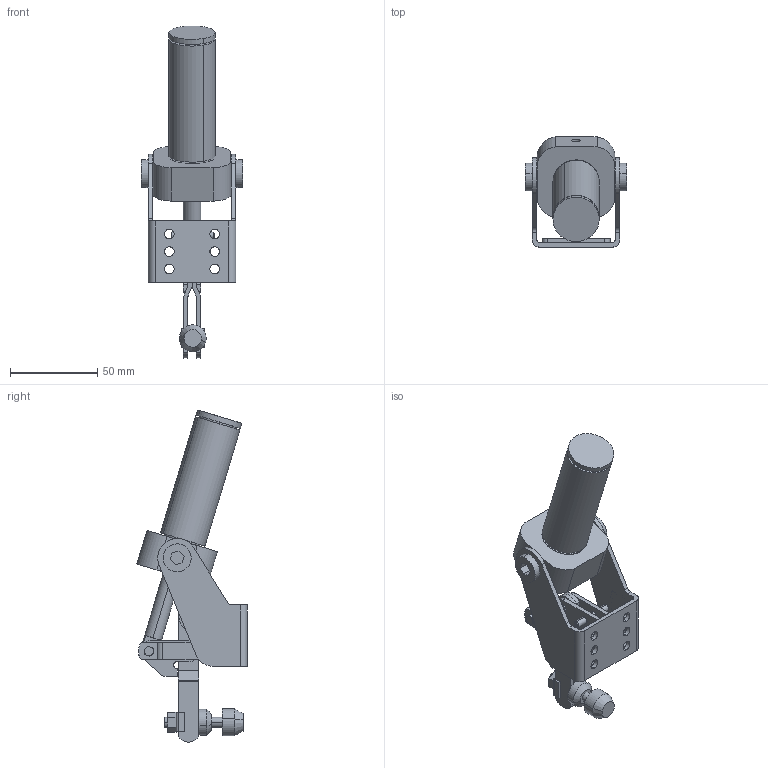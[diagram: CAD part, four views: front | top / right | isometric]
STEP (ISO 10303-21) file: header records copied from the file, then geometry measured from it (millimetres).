
FILE_DESCRIPTION (( 'STEP AP214' ), '1' );
FILE_NAME ('620Y-2 Montaj.STEP', '2017-05-03T08:45:41', ( '' ), ( '' ), 'SwSTEP 2.0', 'SolidWorks 2015', '' );
FILE_SCHEMA (( 'AUTOMOTIVE_DESIGN' ));
Length unit declared in the file: millimetre
Products named in the file (20): 620Y-2-17 silindir; 620Y-2-14 Part13; 620Y-2-6 baski lamasi; 620Y-2-4 baski lamasi; 620Y-2-3 BURC; 620Y-2-2 ayak2; 620Y-2-1 ayak; 620Y-2-16 pramatik ayak tablasi; 620Y-2-5 Baski lamasi; 620Y-2 Montaj; 620Y-2-10 mil; 620Y-2-12 ozel somun; 620Y-2-18 somun; 620Y-2-9 lastik; 620Y-2-8 civata; 620Y-2-19 u papuc; 620Y-2-25 yarikli pim; 620Y-2-7 civata2; 620Y-2-13 Part6; 620Y-2-11 montaj percini
Assembly tree (24 placements, depth 2):
  620Y-2 Montaj
    620Y-2-16 pramatik ayak tablasi
    620Y-2-1 ayak
    620Y-2-2 ayak2
    620Y-2-3 BURC
    620Y-2-4 baski lamasi  x2
    620Y-2-6 baski lamasi  x2
    620Y-2-14 Part13
    620Y-2-17 silindir
    620Y-2-11 montaj percini  x2
    620Y-2-13 Part6
    620Y-2-7 civata2  x2
    620Y-2-25 yarikli pim
    620Y-2-19 u papuc
    620Y-2-8 civata
    620Y-2-9 lastik
    620Y-2-18 somun
    620Y-2-12 ozel somun
    620Y-2-10 mil
    620Y-2-5 Baski lamasi  x2
Bounding box: 58 x 62.99 x 190.03 mm (x, y, z)
Volume: 113378.5 mm3; surface area: 54657.4 mm2
Topology: 24 solids, 24 shells, 573 faces, 1443 edges, 954 vertices
Faces by surface type: plane 303, cylinder 201, bspline 55, cone 14
Entity records: 19570 total; most frequent: CARTESIAN_POINT 6113, ORIENTED_EDGE 2448, DIRECTION 2330, EDGE_CURVE 1224, VERTEX_POINT 810, AXIS2_PLACEMENT_3D 785, LINE 760, VECTOR 760
